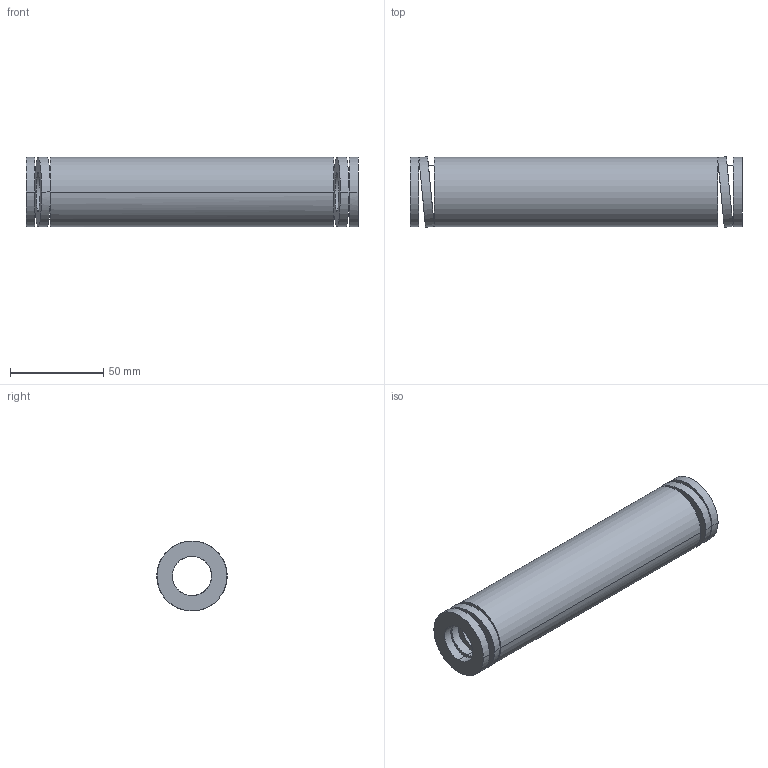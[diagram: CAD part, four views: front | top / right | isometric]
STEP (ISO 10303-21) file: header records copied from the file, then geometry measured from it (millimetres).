
FILE_DESCRIPTION(('CATIA V5 STEP Exchange'),'2;1');
FILE_NAME('C:\Users\Utente\Desktop\IO LAVORO\3D X SITO CF\X SITO\3D files 392B\392-B40-178.stp','2021-08-13T11:13:39+00:00',('none'),('none'),'CATIA Version 5 Release 20 GA (IN-10)','CATIA V5 STEP AP203','none');
FILE_SCHEMA(('CONFIG_CONTROL_DESIGN'));
Length unit declared in the file: millimetre
Products named in the file (1): 392-B40-178
Bounding box: 178 x 37.78 x 37.5 mm (x, y, z)
Volume: 128708.3 mm3; surface area: 38944.7 mm2
Topology: 1 solids, 1 shells, 38 faces, 92 edges, 64 vertices
Faces by surface type: cylinder 28, plane 10
Entity records: 1626 total; most frequent: CARTESIAN_POINT 747, ORIENTED_EDGE 184, DIRECTION 124, EDGE_CURVE 92, VERTEX_POINT 64, AXIS2_PLACEMENT_3D 59, EDGE_LOOP 56, B_SPLINE_CURVE_WITH_KNOTS 44
